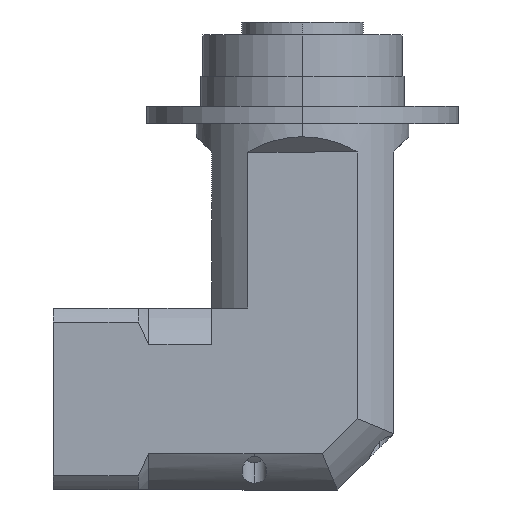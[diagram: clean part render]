
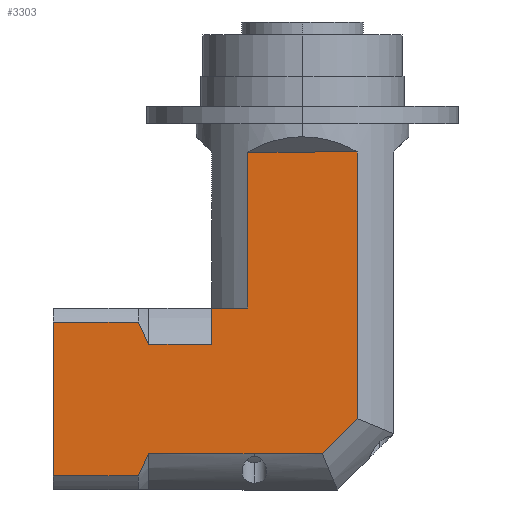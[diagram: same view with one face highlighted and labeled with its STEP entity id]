
A CAD part, left-side view. The second image highlights one B-rep face of the part: STEP entity #3303.
In plain terms, the highlighted planar face has unit normal (-1, 0, 0).
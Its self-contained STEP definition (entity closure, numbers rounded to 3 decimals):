
#27 = CARTESIAN_POINT ( 'NONE',  ( -21., 21., 78. ) ) ;
#57 = LINE ( 'NONE', #3821, #1628 ) ;
#68 = DIRECTION ( 'NONE',  ( 0., 0., -1. ) ) ;
#149 = EDGE_CURVE ( 'NONE', #201, #1466, #2772, .T. ) ;
#176 = EDGE_CURVE ( 'NONE', #2062, #1509, #786, .T. ) ;
#201 = VERTEX_POINT ( 'NONE', #2456 ) ;
#279 = ORIENTED_EDGE ( 'NONE', *, *, #529, .F. ) ;
#287 = CARTESIAN_POINT ( 'NONE',  ( -21., 21., 33.619 ) ) ;
#291 = VECTOR ( 'NONE', #1291, 1000. ) ;
#324 = EDGE_CURVE ( 'NONE', #374, #3418, #2451, .T. ) ;
#374 = VERTEX_POINT ( 'NONE', #4295 ) ;
#428 = ORIENTED_EDGE ( 'NONE', *, *, #5396, .F. ) ;
#463 = EDGE_CURVE ( 'NONE', #1952, #3301, #1494, .T. ) ;
#529 = EDGE_CURVE ( 'NONE', #3532, #1839, #1326, .T. ) ;
#545 = CARTESIAN_POINT ( 'NONE',  ( -21., 35.5, 8.381 ) ) ;
#680 = CARTESIAN_POINT ( 'NONE',  ( -21., -12.619, 58.5 ) ) ;
#718 = LINE ( 'NONE', #1168, #5115 ) ;
#786 = LINE ( 'NONE', #27, #291 ) ;
#837 = VECTOR ( 'NONE', #2540, 1000. ) ;
#939 = ORIENTED_EDGE ( 'NONE', *, *, #149, .F. ) ;
#957 = CARTESIAN_POINT ( 'NONE',  ( -21., -4.529, 8.381 ) ) ;
#1065 = CARTESIAN_POINT ( 'NONE',  ( -21., 21., 58.5 ) ) ;
#1103 = CARTESIAN_POINT ( 'NONE',  ( -21., 21., 58.5 ) ) ;
#1119 = DIRECTION ( 'NONE',  ( 0., -1., 0. ) ) ;
#1142 = DIRECTION ( 'NONE',  ( 0., 0., 1. ) ) ;
#1160 = VECTOR ( 'NONE', #4010, 1000. ) ;
#1168 = CARTESIAN_POINT ( 'NONE',  ( -21., 21., 42. ) ) ;
#1291 = DIRECTION ( 'NONE',  ( 0., -1., 0. ) ) ;
#1292 = VECTOR ( 'NONE', #1142, 1000. ) ;
#1326 = LINE ( 'NONE', #5146, #4801 ) ;
#1398 = CARTESIAN_POINT ( 'NONE',  ( -21., 37.906, 38.755 ) ) ;
#1466 = VERTEX_POINT ( 'NONE', #2195 ) ;
#1481 = EDGE_CURVE ( 'NONE', #3753, #374, #1798, .T. ) ;
#1494 = LINE ( 'NONE', #1065, #1160 ) ;
#1509 = VERTEX_POINT ( 'NONE', #4846 ) ;
#1628 = VECTOR ( 'NONE', #2633, 1000. ) ;
#1683 = LINE ( 'NONE', #2561, #3585 ) ;
#1757 = DIRECTION ( 'NONE',  ( 1., 0., 0. ) ) ;
#1798 = LINE ( 'NONE', #2713, #2777 ) ;
#1839 = VERTEX_POINT ( 'NONE', #2730 ) ;
#1906 = VECTOR ( 'NONE', #68, 1000. ) ;
#1952 = VERTEX_POINT ( 'NONE', #287 ) ;
#2062 = VERTEX_POINT ( 'NONE', #3054 ) ;
#2100 = VERTEX_POINT ( 'NONE', #4772 ) ;
#2195 = CARTESIAN_POINT ( 'NONE',  ( -21., 57.5, 3.245 ) ) ;
#2235 = ORIENTED_EDGE ( 'NONE', *, *, #1481, .F. ) ;
#2354 = PLANE ( 'NONE',  #3701 ) ;
#2407 = ORIENTED_EDGE ( 'NONE', *, *, #324, .F. ) ;
#2433 = ORIENTED_EDGE ( 'NONE', *, *, #3862, .F. ) ;
#2451 = B_SPLINE_CURVE_WITH_KNOTS ( 'NONE', 3,
 ( #1398, #3129, #4739, #3440 ),
 .UNSPECIFIED., .F., .F.,
 ( 4, 4 ),
 ( 0., 0.006 ),
 .UNSPECIFIED. ) ;
#2456 = CARTESIAN_POINT ( 'NONE',  ( -21., 37.906, 3.245 ) ) ;
#2481 = CARTESIAN_POINT ( 'NONE',  ( -21., 35.5, 33.619 ) ) ;
#2540 = DIRECTION ( 'NONE',  ( 0., 1., 0. ) ) ;
#2561 = CARTESIAN_POINT ( 'NONE',  ( -21., 12.619, 58.5 ) ) ;
#2633 = DIRECTION ( 'NONE',  ( 0., 0.707, -0.707 ) ) ;
#2647 = DIRECTION ( 'NONE',  ( 0., -1., 0. ) ) ;
#2669 = ORIENTED_EDGE ( 'NONE', *, *, #2924, .F. ) ;
#2707 = CARTESIAN_POINT ( 'NONE',  ( -21., 21., 33.619 ) ) ;
#2713 = CARTESIAN_POINT ( 'NONE',  ( -21., 21., 38.755 ) ) ;
#2730 = CARTESIAN_POINT ( 'NONE',  ( -21., 35.5, 8.381 ) ) ;
#2772 = LINE ( 'NONE', #2884, #837 ) ;
#2777 = VECTOR ( 'NONE', #3521, 1000. ) ;
#2806 = LINE ( 'NONE', #680, #1906 ) ;
#2884 = CARTESIAN_POINT ( 'NONE',  ( -21., 21., 3.245 ) ) ;
#2924 = EDGE_CURVE ( 'NONE', #3418, #1952, #3975, .T. ) ;
#3054 = CARTESIAN_POINT ( 'NONE',  ( -21., 12.619, 78. ) ) ;
#3129 = CARTESIAN_POINT ( 'NONE',  ( -21., 37.036, 37.075 ) ) ;
#3134 = CARTESIAN_POINT ( 'NONE',  ( -21., 12.619, 42. ) ) ;
#3156 = CARTESIAN_POINT ( 'NONE',  ( -21., 36.223, 6.631 ) ) ;
#3207 = CARTESIAN_POINT ( 'NONE',  ( -21., 37.036, 4.925 ) ) ;
#3301 = VERTEX_POINT ( 'NONE', #4904 ) ;
#3303 = ADVANCED_FACE ( 'NONE', ( #4755 ), #2354, .F. ) ;
#3309 = EDGE_CURVE ( 'NONE', #1509, #2100, #2806, .T. ) ;
#3335 = ORIENTED_EDGE ( 'NONE', *, *, #176, .F. ) ;
#3351 = CARTESIAN_POINT ( 'NONE',  ( -21., 57.5, 38.755 ) ) ;
#3411 = VECTOR ( 'NONE', #2647, 1000. ) ;
#3418 = VERTEX_POINT ( 'NONE', #2481 ) ;
#3440 = CARTESIAN_POINT ( 'NONE',  ( -21., 35.5, 33.619 ) ) ;
#3521 = DIRECTION ( 'NONE',  ( 0., -1., 0. ) ) ;
#3530 = EDGE_CURVE ( 'NONE', #2100, #3532, #57, .T. ) ;
#3532 = VERTEX_POINT ( 'NONE', #957 ) ;
#3585 = VECTOR ( 'NONE', #4206, 1000. ) ;
#3701 = AXIS2_PLACEMENT_3D ( 'NONE', #1103, #1757, #4727 ) ;
#3753 = VERTEX_POINT ( 'NONE', #3351 ) ;
#3821 = CARTESIAN_POINT ( 'NONE',  ( -21., -12.619, 16.471 ) ) ;
#3862 = EDGE_CURVE ( 'NONE', #5029, #2062, #1683, .T. ) ;
#3908 = ORIENTED_EDGE ( 'NONE', *, *, #3530, .F. ) ;
#3975 = LINE ( 'NONE', #2707, #3411 ) ;
#4010 = DIRECTION ( 'NONE',  ( 0., 0., 1. ) ) ;
#4125 = DIRECTION ( 'NONE',  ( 0., 1., 0. ) ) ;
#4133 = ORIENTED_EDGE ( 'NONE', *, *, #5406, .F. ) ;
#4165 = EDGE_LOOP ( 'NONE', ( #3335, #2433, #428, #4269, #2669, #2407, #2235, #4133, #939, #4887, #279, #3908, #4616 ) ) ;
#4206 = DIRECTION ( 'NONE',  ( 0., 0., 1. ) ) ;
#4269 = ORIENTED_EDGE ( 'NONE', *, *, #463, .F. ) ;
#4295 = CARTESIAN_POINT ( 'NONE',  ( -21., 37.906, 38.755 ) ) ;
#4523 = LINE ( 'NONE', #4623, #1292 ) ;
#4616 = ORIENTED_EDGE ( 'NONE', *, *, #3309, .F. ) ;
#4623 = CARTESIAN_POINT ( 'NONE',  ( -21., 57.5, 58.5 ) ) ;
#4727 = DIRECTION ( 'NONE',  ( 0., 0., -1. ) ) ;
#4739 = CARTESIAN_POINT ( 'NONE',  ( -21., 36.223, 35.369 ) ) ;
#4755 = FACE_OUTER_BOUND ( 'NONE', #4165, .T. ) ;
#4768 = B_SPLINE_CURVE_WITH_KNOTS ( 'NONE', 3,
 ( #545, #3156, #3207, #4815 ),
 .UNSPECIFIED., .F., .F.,
 ( 4, 4 ),
 ( 0., 0.006 ),
 .UNSPECIFIED. ) ;
#4772 = CARTESIAN_POINT ( 'NONE',  ( -21., -12.619, 16.471 ) ) ;
#4801 = VECTOR ( 'NONE', #4125, 1000. ) ;
#4815 = CARTESIAN_POINT ( 'NONE',  ( -21., 37.906, 3.245 ) ) ;
#4846 = CARTESIAN_POINT ( 'NONE',  ( -21., -12.619, 78. ) ) ;
#4887 = ORIENTED_EDGE ( 'NONE', *, *, #5271, .F. ) ;
#4904 = CARTESIAN_POINT ( 'NONE',  ( -21., 21., 42. ) ) ;
#5029 = VERTEX_POINT ( 'NONE', #3134 ) ;
#5115 = VECTOR ( 'NONE', #1119, 1000. ) ;
#5146 = CARTESIAN_POINT ( 'NONE',  ( -21., 21., 8.381 ) ) ;
#5271 = EDGE_CURVE ( 'NONE', #1839, #201, #4768, .T. ) ;
#5396 = EDGE_CURVE ( 'NONE', #3301, #5029, #718, .T. ) ;
#5406 = EDGE_CURVE ( 'NONE', #1466, #3753, #4523, .T. ) ;
